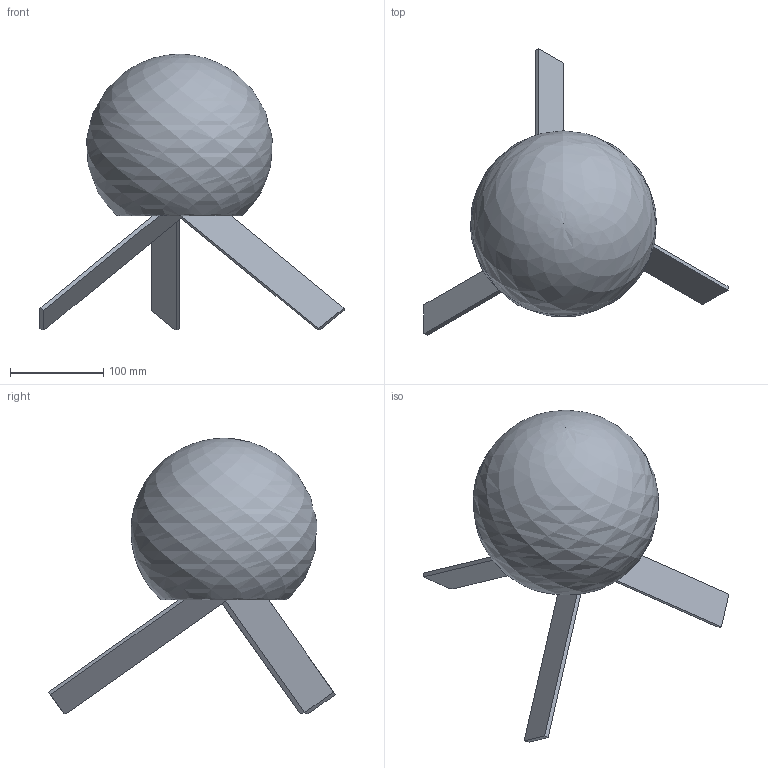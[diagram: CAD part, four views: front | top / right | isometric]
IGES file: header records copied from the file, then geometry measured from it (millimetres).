
Start section: Use this template file for building objects the size of a truck or smaller, and for objects which must be built to manufacturing tolerances. Units: Millimeters Absolute tolerance: .001 mm
Bounding box: 326.61 x 308.13 x 295.85 mm (x, y, z)
Surface area: 172680.5 mm2 (no closed solid volume)
Topology: 0 solids, 0 shells, 20 faces, 103 edges, 102 vertices
Faces by surface type: bspline 20
